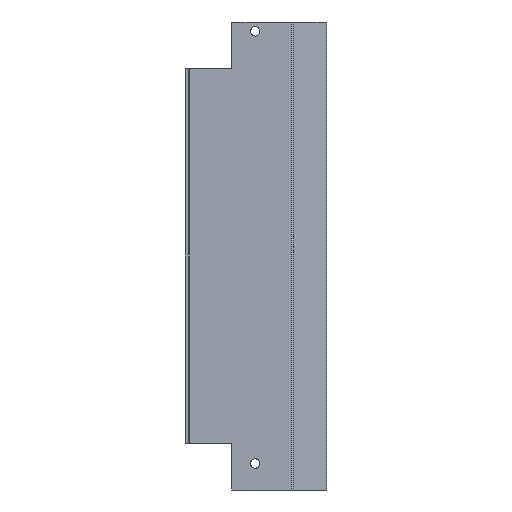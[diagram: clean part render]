
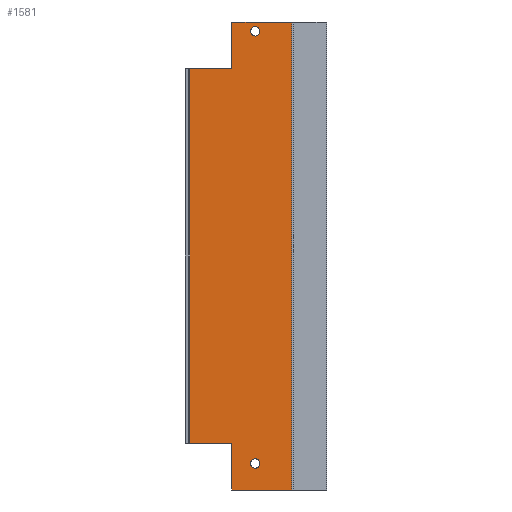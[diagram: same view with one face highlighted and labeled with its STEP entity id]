
A CAD part, left-side view. The second image highlights one B-rep face of the part: STEP entity #1581.
In plain terms, the highlighted planar face has unit normal (-1, 0, 0).
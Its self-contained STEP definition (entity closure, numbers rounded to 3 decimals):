
#63 = VERTEX_POINT ( 'NONE', #436 ) ;
#66 = VERTEX_POINT ( 'NONE', #431 ) ;
#261 = EDGE_CURVE ( 'NONE', #273, #1576, #806, .T. ) ;
#262 = ORIENTED_EDGE ( 'NONE', *, *, #275, .F. ) ;
#264 = VERTEX_POINT ( 'NONE', #769 ) ;
#265 = ORIENTED_EDGE ( 'NONE', *, *, #1574, .T. ) ;
#266 = EDGE_CURVE ( 'NONE', #1577, #1566, #813, .T. ) ;
#267 = ORIENTED_EDGE ( 'NONE', *, *, #274, .F. ) ;
#269 = EDGE_CURVE ( 'NONE', #1576, #1573, #763, .T. ) ;
#270 = ORIENTED_EDGE ( 'NONE', *, *, #269, .F. ) ;
#273 = VERTEX_POINT ( 'NONE', #794 ) ;
#274 = EDGE_CURVE ( 'NONE', #1499, #264, #790, .T. ) ;
#275 = EDGE_CURVE ( 'NONE', #264, #281, #839, .T. ) ;
#277 = ORIENTED_EDGE ( 'NONE', *, *, #1476, .T. ) ;
#278 = EDGE_LOOP ( 'NONE', ( #1575, #1579 ) ) ;
#279 = ORIENTED_EDGE ( 'NONE', *, *, #1427, .T. ) ;
#280 = ORIENTED_EDGE ( 'NONE', *, *, #1578, .T. ) ;
#281 = VERTEX_POINT ( 'NONE', #840 ) ;
#282 = EDGE_LOOP ( 'NONE', ( #283, #265, #1586, #1585, #262, #267, #277, #270 ) ) ;
#283 = ORIENTED_EDGE ( 'NONE', *, *, #261, .F. ) ;
#431 = CARTESIAN_POINT ( 'NONE',  ( -52., 49., 17. ) ) ;
#436 = CARTESIAN_POINT ( 'NONE',  ( -52., 43., 17. ) ) ;
#535 = VERTEX_POINT ( 'NONE', #947 ) ;
#560 = VERTEX_POINT ( 'NONE', #1021 ) ;
#763 = LINE ( 'NONE', #807, #797 ) ;
#769 = CARTESIAN_POINT ( 'NONE',  ( -52., 61., 270. ) ) ;
#788 = DIRECTION ( 'NONE',  ( 0., -1., 0. ) ) ;
#789 = VECTOR ( 'NONE', #788, 1000. ) ;
#790 = LINE ( 'NONE', #799, #789 ) ;
#794 = CARTESIAN_POINT ( 'NONE',  ( -52., 61., 0. ) ) ;
#796 = DIRECTION ( 'NONE',  ( 0., 1., 0. ) ) ;
#797 = VECTOR ( 'NONE', #796, 1000. ) ;
#799 = CARTESIAN_POINT ( 'NONE',  ( -52., 22.657, 270. ) ) ;
#800 = DIRECTION ( 'NONE',  ( 0., 0., -1. ) ) ;
#803 = DIRECTION ( 'NONE',  ( 0., 0., 1. ) ) ;
#804 = VECTOR ( 'NONE', #803, 1000. ) ;
#805 = CARTESIAN_POINT ( 'NONE',  ( -52., 61., 300. ) ) ;
#806 = LINE ( 'NONE', #805, #804 ) ;
#807 = CARTESIAN_POINT ( 'NONE',  ( -52., 22.657, 30. ) ) ;
#811 = VECTOR ( 'NONE', #800, 1000. ) ;
#812 = CARTESIAN_POINT ( 'NONE',  ( -52., 22.657, 300. ) ) ;
#813 = LINE ( 'NONE', #812, #811 ) ;
#836 = DIRECTION ( 'NONE',  ( 0., 0., 1. ) ) ;
#837 = VECTOR ( 'NONE', #836, 1000. ) ;
#838 = CARTESIAN_POINT ( 'NONE',  ( -52., 61., 300. ) ) ;
#839 = LINE ( 'NONE', #838, #837 ) ;
#840 = CARTESIAN_POINT ( 'NONE',  ( -52., 61., 300. ) ) ;
#947 = CARTESIAN_POINT ( 'NONE',  ( -52., 49., 294. ) ) ;
#1000 = CARTESIAN_POINT ( 'NONE',  ( -52., 46., 17. ) ) ;
#1006 = CIRCLE ( 'NONE', #1046, 3. ) ;
#1021 = CARTESIAN_POINT ( 'NONE',  ( -52., 43., 294. ) ) ;
#1044 = DIRECTION ( 'NONE',  ( 0., 1., 0. ) ) ;
#1045 = DIRECTION ( 'NONE',  ( 1., 0., 0. ) ) ;
#1046 = AXIS2_PLACEMENT_3D ( 'NONE', #1000, #1045, #1044 ) ;
#1060 = DIRECTION ( 'NONE',  ( 0., 1., 0. ) ) ;
#1061 = DIRECTION ( 'NONE',  ( 1., 0., 0. ) ) ;
#1072 = AXIS2_PLACEMENT_3D ( 'NONE', #1078, #1061, #1060 ) ;
#1078 = CARTESIAN_POINT ( 'NONE',  ( -52., 46., 294. ) ) ;
#1080 = CIRCLE ( 'NONE', #1072, 3. ) ;
#1117 = CARTESIAN_POINT ( 'NONE',  ( -52., 88., 270. ) ) ;
#1135 = DIRECTION ( 'NONE',  ( 0., 0., -1. ) ) ;
#1136 = VECTOR ( 'NONE', #1135, 1000. ) ;
#1137 = CARTESIAN_POINT ( 'NONE',  ( -52., 88., 300. ) ) ;
#1138 = LINE ( 'NONE', #1137, #1136 ) ;
#1243 = CIRCLE ( 'NONE', #1253, 3. ) ;
#1244 = CARTESIAN_POINT ( 'NONE',  ( -52., 22.657, 300. ) ) ;
#1245 = CIRCLE ( 'NONE', #1296, 3. ) ;
#1246 = FACE_OUTER_BOUND ( 'NONE', #282, .T. ) ;
#1247 = FACE_BOUND ( 'NONE', #1582, .T. ) ;
#1248 = AXIS2_PLACEMENT_3D ( 'NONE', #1244, #1261, #1266 ) ;
#1249 = DIRECTION ( 'NONE',  ( 0., -1., 0. ) ) ;
#1250 = VECTOR ( 'NONE', #1249, 1000. ) ;
#1251 = CARTESIAN_POINT ( 'NONE',  ( -52., 22.657, 0. ) ) ;
#1252 = LINE ( 'NONE', #1251, #1250 ) ;
#1253 = AXIS2_PLACEMENT_3D ( 'NONE', #1303, #1302, #1301 ) ;
#1254 = FACE_BOUND ( 'NONE', #278, .T. ) ;
#1261 = DIRECTION ( 'NONE',  ( 1., 0., 0. ) ) ;
#1265 = CARTESIAN_POINT ( 'NONE',  ( -52., 88., 30. ) ) ;
#1266 = DIRECTION ( 'NONE',  ( 0., 1., 0. ) ) ;
#1268 = CARTESIAN_POINT ( 'NONE',  ( -52., 61., 30. ) ) ;
#1269 = CARTESIAN_POINT ( 'NONE',  ( -52., 22.657, 0. ) ) ;
#1272 = CARTESIAN_POINT ( 'NONE',  ( -52., 22.657, 300. ) ) ;
#1282 = VECTOR ( 'NONE', #1283, 1000. ) ;
#1283 = DIRECTION ( 'NONE',  ( 0., -1., 0. ) ) ;
#1284 = CARTESIAN_POINT ( 'NONE',  ( -52., 22.657, 300. ) ) ;
#1291 = LINE ( 'NONE', #1284, #1282 ) ;
#1293 = DIRECTION ( 'NONE',  ( 0., 1., 0. ) ) ;
#1294 = DIRECTION ( 'NONE',  ( 1., 0., 0. ) ) ;
#1295 = CARTESIAN_POINT ( 'NONE',  ( -52., 46., 294. ) ) ;
#1296 = AXIS2_PLACEMENT_3D ( 'NONE', #1295, #1294, #1293 ) ;
#1299 = PLANE ( 'NONE',  #1248 ) ;
#1301 = DIRECTION ( 'NONE',  ( 0., 1., 0. ) ) ;
#1302 = DIRECTION ( 'NONE',  ( 1., 0., 0. ) ) ;
#1303 = CARTESIAN_POINT ( 'NONE',  ( -52., 46., 17. ) ) ;
#1427 = EDGE_CURVE ( 'NONE', #63, #66, #1006, .T. ) ;
#1444 = EDGE_CURVE ( 'NONE', #560, #535, #1080, .T. ) ;
#1476 = EDGE_CURVE ( 'NONE', #1499, #1573, #1138, .T. ) ;
#1499 = VERTEX_POINT ( 'NONE', #1117 ) ;
#1566 = VERTEX_POINT ( 'NONE', #1269 ) ;
#1573 = VERTEX_POINT ( 'NONE', #1265 ) ;
#1574 = EDGE_CURVE ( 'NONE', #273, #1566, #1252, .T. ) ;
#1575 = ORIENTED_EDGE ( 'NONE', *, *, #1583, .T. ) ;
#1576 = VERTEX_POINT ( 'NONE', #1268 ) ;
#1577 = VERTEX_POINT ( 'NONE', #1272 ) ;
#1578 = EDGE_CURVE ( 'NONE', #66, #63, #1243, .T. ) ;
#1579 = ORIENTED_EDGE ( 'NONE', *, *, #1444, .T. ) ;
#1581 = ADVANCED_FACE ( 'NONE', ( #1254, #1247, #1246 ), #1299, .F. ) ;
#1582 = EDGE_LOOP ( 'NONE', ( #280, #279 ) ) ;
#1583 = EDGE_CURVE ( 'NONE', #535, #560, #1245, .T. ) ;
#1585 = ORIENTED_EDGE ( 'NONE', *, *, #1587, .F. ) ;
#1586 = ORIENTED_EDGE ( 'NONE', *, *, #266, .F. ) ;
#1587 = EDGE_CURVE ( 'NONE', #281, #1577, #1291, .T. ) ;
